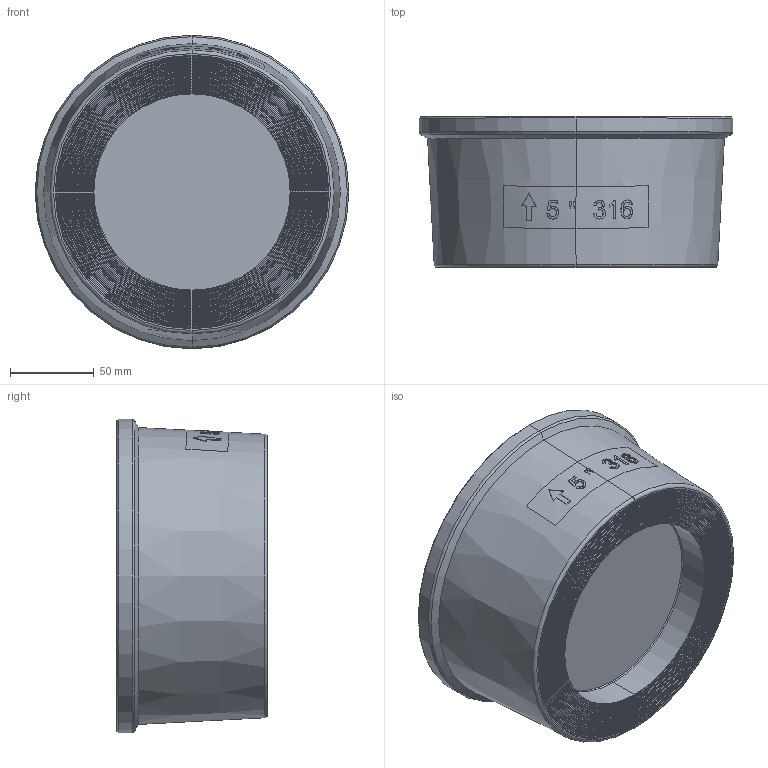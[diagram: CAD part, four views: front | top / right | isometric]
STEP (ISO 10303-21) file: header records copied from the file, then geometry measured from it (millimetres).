
FILE_DESCRIPTION (( 'STEP AP203' ), '1' );
FILE_NAME ('MV-53-00 DN125.STEP', '2020-04-29T02:55:03', ( 'Lenovo' ), ( 'China' ), 'SwSTEP 2.0', 'SolidWorks 2010', '' );
FILE_SCHEMA (( 'CONFIG_CONTROL_DESIGN' ));
Length unit declared in the file: millimetre
Products named in the file (5): Disc; BODY; MV-53-00  DN125; Spring Cover; Spring
Assembly tree (4 placements, depth 2):
  MV-53-00  DN125
    BODY
    Spring Cover
    Disc
    Spring
Bounding box: 187 x 90 x 187 mm (x, y, z)
Volume: 728834.5 mm3; surface area: 208682.8 mm2
Topology: 4 solids, 4 shells, 304 faces, 685 edges, 448 vertices
Faces by surface type: torus 94, plane 73, bspline 69, cylinder 42, cone 26
Entity records: 30354 total; most frequent: CARTESIAN_POINT 23239, ORIENTED_EDGE 1370, DIRECTION 1346, EDGE_CURVE 685, AXIS2_PLACEMENT_3D 630, VERTEX_POINT 448, CIRCLE 388, EDGE_LOOP 373
